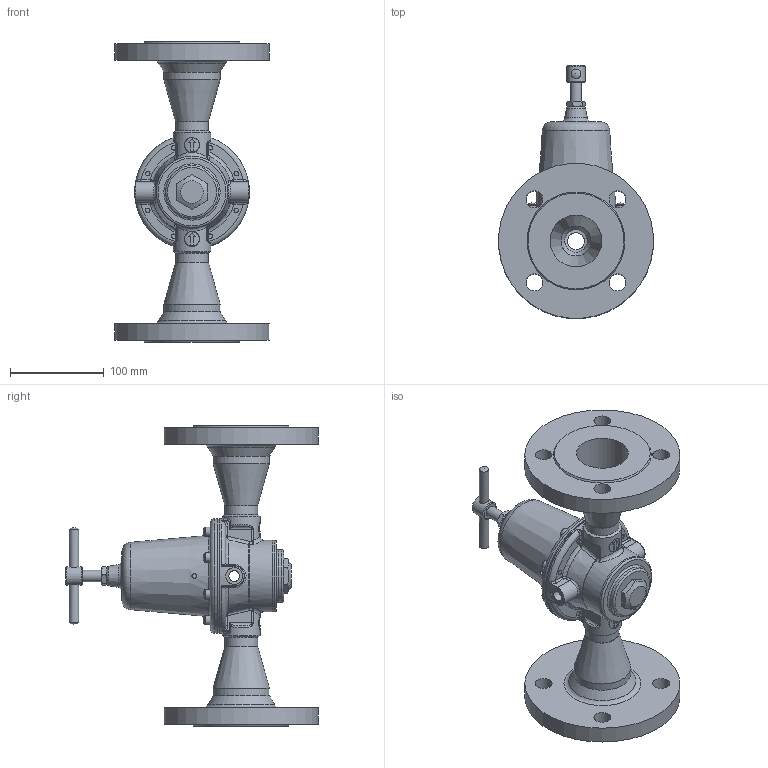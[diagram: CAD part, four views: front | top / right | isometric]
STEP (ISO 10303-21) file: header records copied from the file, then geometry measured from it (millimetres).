
FILE_DESCRIPTION(/* description */ (''),/* implementation_level */ '2;1');
FILE_NAME(/* name */ 'U:/AirCom-Produktdokumentation/Druckregler/REF/Zeichnungen/CAD-Aircom/3D/B-Ref-16x.step',/* time_stamp */ '2022-06-03T09:00:16+02:00',/* author */ (''),/* organization */ (''),/* preprocessor_version */ 'ST-DEVELOPER v19',/* originating_system */ 'Autodesk Translation Framework v11.7.0.108',/* authorisation */ '');
FILE_SCHEMA (('AUTOMOTIVE_DESIGN { 1 0 10303 214 3 1 1 }'));
Length unit declared in the file: millimetre
Products named in the file (12): DM3405071-03; GAF0050.37.0044; GAZ0032.26.0014; FLA0050.10.0013; Reduzierung-FL-D50_DN32; DER0760.08.0025; MED1225.01.0015; GGZ0015.23.0034; local.DIN.132.110.8; DIN6304-M12-080; ADK-06-GRAU; DIN 912 - M6 x 16
Assembly tree (27 placements, depth 3):
  DM3405071-03
    GAF0050.37.0044
      GAZ0032.26.0014
      FLA0050.10.0013  x2
      Reduzierung-FL-D50_DN32  x2
    DER0760.08.0025
    MED1225.01.0015
    GGZ0015.23.0034
    local.DIN.132.110.8
    DIN6304-M12-080
    ADK-06-GRAU  x8
    DIN 912 - M6 x 16  x8
Bounding box: 164.37 x 269.19 x 320 mm (x, y, z)
Volume: 1243611.9 mm3; surface area: 321133.5 mm2
Topology: 26 solids, 26 shells, 531 faces, 1220 edges, 763 vertices
Faces by surface type: plane 187, cylinder 173, bspline 74, cone 57, torus 29, sphere 11
Full cylindrical faces by diameter (mm): 3.5 x8, 4.917 x8, 5 x9, 5.2 x8, 6 x16, 6.6 x16, 8 x9, 10 x10, 10.106 x2, 11.445 x2, 12 x1, 15 x1, 16 x2, 18 x11, 20 x2, 24 x2, 32 x2, 35 x2, 40 x2, 55.1 x2, 56 x1, 60.3 x2, 65 x1, 66 x1, 66.5 x1, 68 x1, 76 x2, 122 x3, 165 x2
Entity records: 15664 total; most frequent: CARTESIAN_POINT 7504, ORIENTED_EDGE 1610, DIRECTION 1574, EDGE_CURVE 805, AXIS2_PLACEMENT_3D 668, VERTEX_POINT 509, EDGE_LOOP 446, FACE_OUTER_BOUND 338
